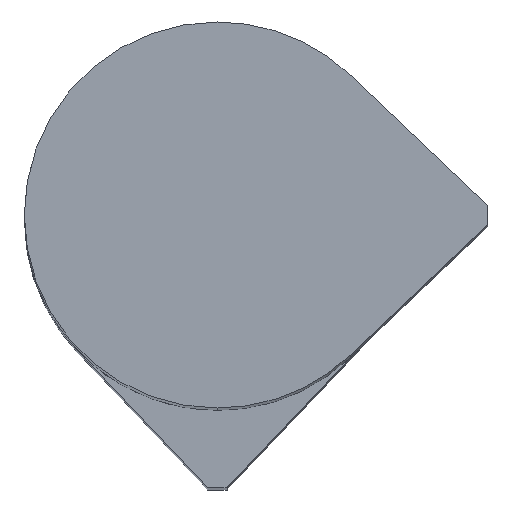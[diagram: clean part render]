
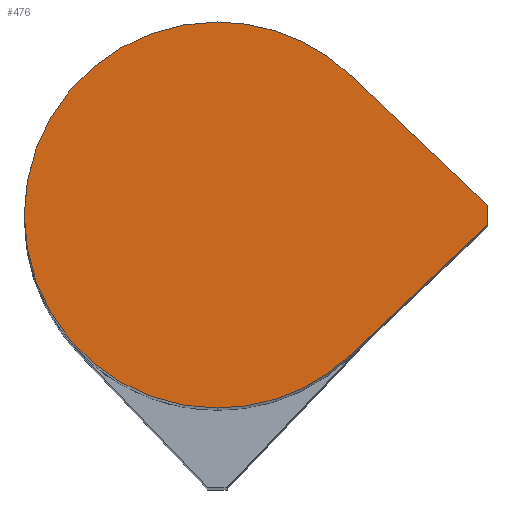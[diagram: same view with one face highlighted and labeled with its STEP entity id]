
A CAD part, top view. The second image highlights one B-rep face of the part: STEP entity #476.
In plain terms, the highlighted planar face has unit normal (0, 0, 1) as drawn and (0, 0, -1) by its records, which use the part's own axes.
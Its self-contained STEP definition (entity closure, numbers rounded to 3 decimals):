
#32 = VERTEX_POINT ( 'NONE', #1003 ) ;
#44 = CARTESIAN_POINT ( 'NONE',  ( 0.25, -7., 0. ) ) ;
#52 = EDGE_CURVE ( 'NONE', #1100, #1517, #1387, .T. ) ;
#141 = EDGE_CURVE ( 'NONE', #1686, #1097, #1756, .T. ) ;
#257 = DIRECTION ( 'NONE',  ( 0.688, 0.725, 0. ) ) ;
#298 = CARTESIAN_POINT ( 'NONE',  ( 3.627, -3.442, 0. ) ) ;
#309 = VECTOR ( 'NONE', #257, 1000. ) ;
#346 = EDGE_CURVE ( 'NONE', #1097, #1100, #1593, .T. ) ;
#430 = EDGE_CURVE ( 'NONE', #1318, #1686, #835, .T. ) ;
#469 = ORIENTED_EDGE ( 'NONE', *, *, #1579, .F. ) ;
#476 = ADVANCED_FACE ( 'NONE', ( #879 ), #1018, .F. ) ;
#693 = ORIENTED_EDGE ( 'NONE', *, *, #141, .F. ) ;
#709 = EDGE_CURVE ( 'NONE', #1517, #32, #1201, .T. ) ;
#718 = LINE ( 'NONE', #298, #309 ) ;
#764 = DIRECTION ( 'NONE',  ( 0., 0., 1. ) ) ;
#789 = DIRECTION ( 'NONE',  ( 1., 0., 0. ) ) ;
#801 = DIRECTION ( 'NONE',  ( 0.688, -0.725, 0. ) ) ;
#835 = CIRCLE ( 'NONE', #918, 5. ) ;
#879 = FACE_OUTER_BOUND ( 'NONE', #1735, .T. ) ;
#887 = ORIENTED_EDGE ( 'NONE', *, *, #346, .F. ) ;
#912 = CARTESIAN_POINT ( 'NONE',  ( 0., 0., 0. ) ) ;
#918 = AXIS2_PLACEMENT_3D ( 'NONE', #1577, #1592, #1600 ) ;
#920 = CARTESIAN_POINT ( 'NONE',  ( -3.627, -3.442, 0. ) ) ;
#993 = DIRECTION ( 'NONE',  ( 1., 0., 0. ) ) ;
#1003 = CARTESIAN_POINT ( 'NONE',  ( 0.25, -7., 0. ) ) ;
#1018 = PLANE ( 'NONE',  #1289 ) ;
#1064 = AXIS2_PLACEMENT_3D ( 'NONE', #912, #764, #789 ) ;
#1069 = CARTESIAN_POINT ( 'NONE',  ( -5., 0., 0. ) ) ;
#1097 = VERTEX_POINT ( 'NONE', #1069 ) ;
#1100 = VERTEX_POINT ( 'NONE', #920 ) ;
#1126 = VECTOR ( 'NONE', #1754, 1000. ) ;
#1136 = ORIENTED_EDGE ( 'NONE', *, *, #430, .F. ) ;
#1152 = CARTESIAN_POINT ( 'NONE',  ( 5., 0., 0. ) ) ;
#1201 = LINE ( 'NONE', #44, #1126 ) ;
#1216 = CARTESIAN_POINT ( 'NONE',  ( -0.25, -7., 0. ) ) ;
#1234 = DIRECTION ( 'NONE',  ( 1., 0., 0. ) ) ;
#1289 = AXIS2_PLACEMENT_3D ( 'NONE', #1625, #1478, #993 ) ;
#1318 = VERTEX_POINT ( 'NONE', #1479 ) ;
#1342 = DIRECTION ( 'NONE',  ( 0., 0., 1. ) ) ;
#1346 = VECTOR ( 'NONE', #801, 1000. ) ;
#1369 = CARTESIAN_POINT ( 'NONE',  ( 0., 0., 0. ) ) ;
#1387 = LINE ( 'NONE', #1216, #1346 ) ;
#1478 = DIRECTION ( 'NONE',  ( 0., 0., 1. ) ) ;
#1479 = CARTESIAN_POINT ( 'NONE',  ( 3.627, -3.442, 0. ) ) ;
#1480 = ORIENTED_EDGE ( 'NONE', *, *, #709, .F. ) ;
#1517 = VERTEX_POINT ( 'NONE', #1580 ) ;
#1577 = CARTESIAN_POINT ( 'NONE',  ( 0., 0., 0. ) ) ;
#1579 = EDGE_CURVE ( 'NONE', #32, #1318, #718, .T. ) ;
#1580 = CARTESIAN_POINT ( 'NONE',  ( -0.25, -7., 0. ) ) ;
#1592 = DIRECTION ( 'NONE',  ( 0., 0., 1. ) ) ;
#1593 = CIRCLE ( 'NONE', #1678, 5. ) ;
#1600 = DIRECTION ( 'NONE',  ( 1., 0., 0. ) ) ;
#1624 = ORIENTED_EDGE ( 'NONE', *, *, #52, .F. ) ;
#1625 = CARTESIAN_POINT ( 'NONE',  ( 0., 0., 0. ) ) ;
#1678 = AXIS2_PLACEMENT_3D ( 'NONE', #1369, #1342, #1234 ) ;
#1686 = VERTEX_POINT ( 'NONE', #1152 ) ;
#1735 = EDGE_LOOP ( 'NONE', ( #1136, #469, #1480, #1624, #887, #693 ) ) ;
#1754 = DIRECTION ( 'NONE',  ( 1., 0., 0. ) ) ;
#1756 = CIRCLE ( 'NONE', #1064, 5. ) ;
